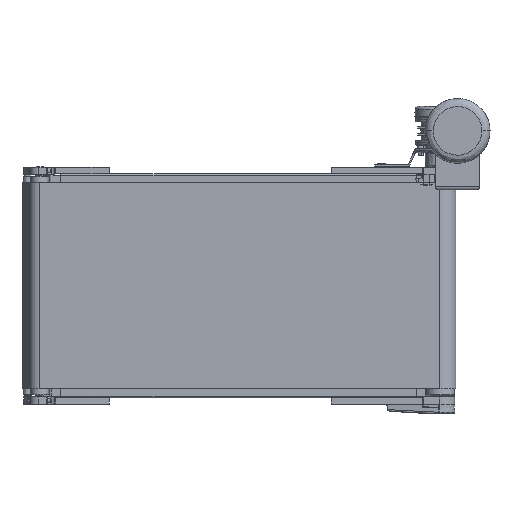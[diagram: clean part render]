
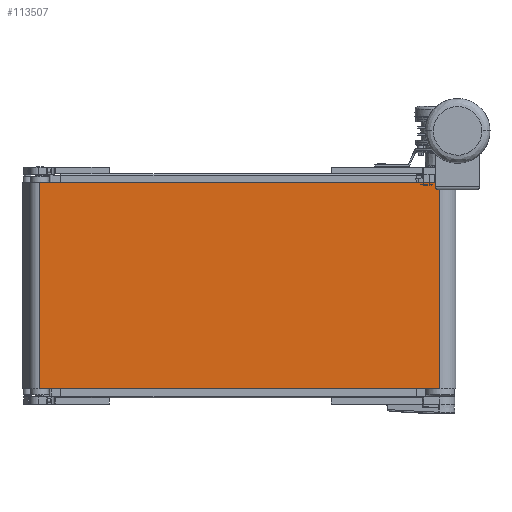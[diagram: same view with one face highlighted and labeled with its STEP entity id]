
A CAD part, front view. The second image highlights one B-rep face of the part: STEP entity #113507.
In plain terms, the highlighted planar face has unit normal (0, -1, 0).
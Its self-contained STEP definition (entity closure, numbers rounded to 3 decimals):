
#4620 = VERTEX_POINT ( 'NONE', #97472 ) ;
#5671 = ORIENTED_EDGE ( 'NONE', *, *, #120635, .F. ) ;
#5890 = DIRECTION ( 'NONE',  ( 0., 0., -1. ) ) ;
#27784 = EDGE_CURVE ( 'NONE', #103688, #140989, #49166, .T. ) ;
#29847 = DIRECTION ( 'NONE',  ( -1., 0., 0. ) ) ;
#35075 = DIRECTION ( 'NONE',  ( 1., 0., 0. ) ) ;
#35297 = ORIENTED_EDGE ( 'NONE', *, *, #140373, .T. ) ;
#35642 = CARTESIAN_POINT ( 'NONE',  ( -338., -27., 175. ) ) ;
#41050 = PLANE ( 'NONE',  #66269 ) ;
#43704 = VECTOR ( 'NONE', #69529, 1000. ) ;
#44651 = ORIENTED_EDGE ( 'NONE', *, *, #98555, .T. ) ;
#47005 = CARTESIAN_POINT ( 'NONE',  ( -338., -27., 175. ) ) ;
#49166 = LINE ( 'NONE', #49893, #98762 ) ;
#49893 = CARTESIAN_POINT ( 'NONE',  ( 342., -27., 175. ) ) ;
#52982 = DIRECTION ( 'NONE',  ( 0., 1., 0. ) ) ;
#64837 = CARTESIAN_POINT ( 'NONE',  ( -338., -27., 175. ) ) ;
#66269 = AXIS2_PLACEMENT_3D ( 'NONE', #64837, #52982, #29847 ) ;
#69529 = DIRECTION ( 'NONE',  ( 0., 0., -1. ) ) ;
#83591 = LINE ( 'NONE', #94036, #43704 ) ;
#86143 = CARTESIAN_POINT ( 'NONE',  ( 342., -27., -175. ) ) ;
#90175 = CARTESIAN_POINT ( 'NONE',  ( -338., -27., -175. ) ) ;
#94036 = CARTESIAN_POINT ( 'NONE',  ( -338., -27., 175. ) ) ;
#97472 = CARTESIAN_POINT ( 'NONE',  ( -338., -27., -175. ) ) ;
#98555 = EDGE_CURVE ( 'NONE', #132542, #4620, #83591, .T. ) ;
#98762 = VECTOR ( 'NONE', #5890, 1000. ) ;
#100861 = VECTOR ( 'NONE', #35075, 1000. ) ;
#103688 = VERTEX_POINT ( 'NONE', #117445 ) ;
#112539 = LINE ( 'NONE', #90175, #100861 ) ;
#113507 = ADVANCED_FACE ( 'NONE', ( #143055 ), #41050, .F. ) ;
#113974 = LINE ( 'NONE', #47005, #118389 ) ;
#115438 = DIRECTION ( 'NONE',  ( 1., 0., 0. ) ) ;
#117445 = CARTESIAN_POINT ( 'NONE',  ( 342., -27., 175. ) ) ;
#118389 = VECTOR ( 'NONE', #115438, 1000. ) ;
#120635 = EDGE_CURVE ( 'NONE', #132542, #103688, #113974, .T. ) ;
#125991 = EDGE_LOOP ( 'NONE', ( #35297, #146578, #5671, #44651 ) ) ;
#132542 = VERTEX_POINT ( 'NONE', #35642 ) ;
#140373 = EDGE_CURVE ( 'NONE', #4620, #140989, #112539, .T. ) ;
#140989 = VERTEX_POINT ( 'NONE', #86143 ) ;
#143055 = FACE_OUTER_BOUND ( 'NONE', #125991, .T. ) ;
#146578 = ORIENTED_EDGE ( 'NONE', *, *, #27784, .F. ) ;
